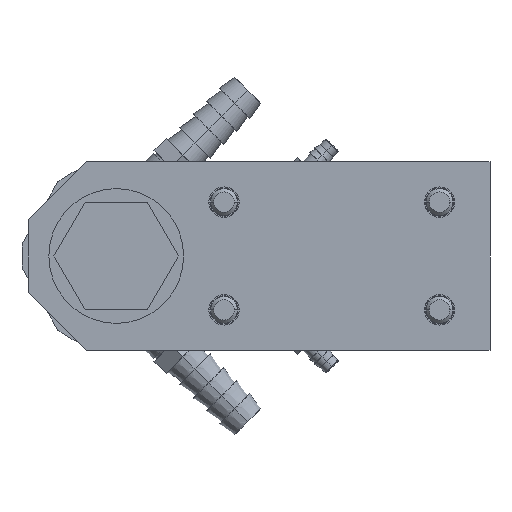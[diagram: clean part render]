
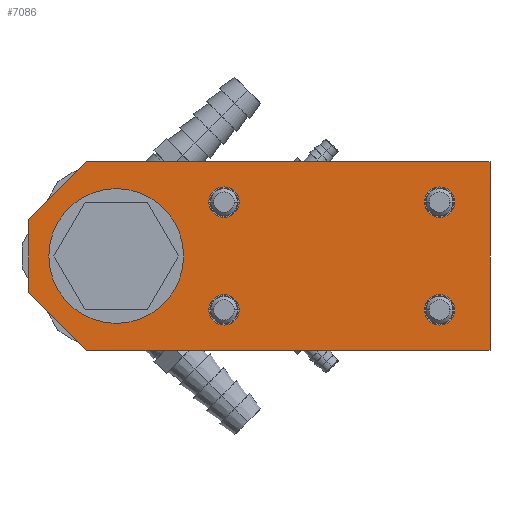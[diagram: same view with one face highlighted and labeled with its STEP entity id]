
A CAD part, left-side view. The second image highlights one B-rep face of the part: STEP entity #7086.
In plain terms, the highlighted planar face has unit normal (-1, 0, 0).
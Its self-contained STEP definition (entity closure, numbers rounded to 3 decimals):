
#6544=CARTESIAN_POINT('',(8.276,-8.673,-4.0));
#6545=VERTEX_POINT('',#6544);
#6561=CARTESIAN_POINT('',(8.276,-7.423,-4.0));
#6562=VERTEX_POINT('',#6561);
#6569=CARTESIAN_POINT('',(8.276,-8.048,-4.0));
#6570=DIRECTION('',(1.0,0.0,0.0));
#6571=DIRECTION('',(0.0,-1.0,0.0));
#6572=AXIS2_PLACEMENT_3D('',#6569,#6570,#6571);
#6573=CIRCLE('',#6572,0.625);
#6574=EDGE_CURVE('',#6545,#6562,#6573,.T.);
#6584=CARTESIAN_POINT('',(8.276,-9.189,-3.5));
#6585=VERTEX_POINT('',#6584);
#6594=CARTESIAN_POINT('',(8.276,-8.908,-3.5));
#6595=VERTEX_POINT('',#6594);
#6596=CARTESIAN_POINT('',(8.276,-9.048,-3.5));
#6597=DIRECTION('',(1.0,0.0,0.0));
#6598=DIRECTION('',(0.0,-1.0,0.0));
#6599=AXIS2_PLACEMENT_3D('',#6596,#6597,#6598);
#6600=CIRCLE('',#6599,0.141);
#6601=EDGE_CURVE('',#6595,#6585,#6600,.T.);
#6626=CARTESIAN_POINT('',(8.276,-11.189,-3.5));
#6627=VERTEX_POINT('',#6626);
#6636=CARTESIAN_POINT('',(8.276,-10.908,-3.5));
#6637=VERTEX_POINT('',#6636);
#6638=CARTESIAN_POINT('',(8.276,-11.048,-3.5));
#6639=DIRECTION('',(1.0,0.0,0.0));
#6640=DIRECTION('',(0.0,-1.0,0.0));
#6641=AXIS2_PLACEMENT_3D('',#6638,#6639,#6640);
#6642=CIRCLE('',#6641,0.141);
#6643=EDGE_CURVE('',#6637,#6627,#6642,.T.);
#6668=CARTESIAN_POINT('',(8.276,-11.189,-4.5));
#6669=VERTEX_POINT('',#6668);
#6678=CARTESIAN_POINT('',(8.276,-10.908,-4.5));
#6679=VERTEX_POINT('',#6678);
#6680=CARTESIAN_POINT('',(8.276,-11.048,-4.5));
#6681=DIRECTION('',(1.0,0.0,0.0));
#6682=DIRECTION('',(0.0,-1.0,0.0));
#6683=AXIS2_PLACEMENT_3D('',#6680,#6681,#6682);
#6684=CIRCLE('',#6683,0.141);
#6685=EDGE_CURVE('',#6679,#6669,#6684,.T.);
#6710=CARTESIAN_POINT('',(8.276,-9.189,-4.5));
#6711=VERTEX_POINT('',#6710);
#6720=CARTESIAN_POINT('',(8.276,-8.908,-4.5));
#6721=VERTEX_POINT('',#6720);
#6722=CARTESIAN_POINT('',(8.276,-9.048,-4.5));
#6723=DIRECTION('',(1.0,0.0,0.0));
#6724=DIRECTION('',(0.0,-1.0,0.0));
#6725=AXIS2_PLACEMENT_3D('',#6722,#6723,#6724);
#6726=CIRCLE('',#6725,0.141);
#6727=EDGE_CURVE('',#6721,#6711,#6726,.T.);
#6761=CARTESIAN_POINT('',(8.276,-9.048,-4.5));
#6762=DIRECTION('',(1.0,0.0,0.0));
#6763=DIRECTION('',(0.0,-1.0,0.0));
#6764=AXIS2_PLACEMENT_3D('',#6761,#6762,#6763);
#6765=CIRCLE('',#6764,0.141);
#6766=EDGE_CURVE('',#6711,#6721,#6765,.T.);
#6785=CARTESIAN_POINT('',(8.276,-11.048,-4.5));
#6786=DIRECTION('',(1.0,0.0,0.0));
#6787=DIRECTION('',(0.0,-1.0,0.0));
#6788=AXIS2_PLACEMENT_3D('',#6785,#6786,#6787);
#6789=CIRCLE('',#6788,0.141);
#6790=EDGE_CURVE('',#6669,#6679,#6789,.T.);
#6809=CARTESIAN_POINT('',(8.276,-11.048,-3.5));
#6810=DIRECTION('',(1.0,0.0,0.0));
#6811=DIRECTION('',(0.0,-1.0,0.0));
#6812=AXIS2_PLACEMENT_3D('',#6809,#6810,#6811);
#6813=CIRCLE('',#6812,0.141);
#6814=EDGE_CURVE('',#6627,#6637,#6813,.T.);
#6833=CARTESIAN_POINT('',(8.276,-9.048,-3.5));
#6834=DIRECTION('',(1.0,0.0,0.0));
#6835=DIRECTION('',(0.0,-1.0,0.0));
#6836=AXIS2_PLACEMENT_3D('',#6833,#6834,#6835);
#6837=CIRCLE('',#6836,0.141);
#6838=EDGE_CURVE('',#6585,#6595,#6837,.T.);
#6849=CARTESIAN_POINT('',(8.276,-8.048,-4.0));
#6850=DIRECTION('',(1.0,0.0,0.0));
#6851=DIRECTION('',(0.0,-1.0,0.0));
#6852=AXIS2_PLACEMENT_3D('',#6849,#6850,#6851);
#6853=CIRCLE('',#6852,0.625);
#6854=EDGE_CURVE('',#6562,#6545,#6853,.T.);
#6882=CARTESIAN_POINT('',(8.276,-7.236,-4.337));
#6883=VERTEX_POINT('',#6882);
#6890=CARTESIAN_POINT('',(8.276,-7.236,-3.663));
#6891=VERTEX_POINT('',#6890);
#6892=CARTESIAN_POINT('',(8.276,-7.236,-3.663));
#6893=DIRECTION('',(0.0,0.0,-1.0));
#6894=VECTOR('',#6893,0.673);
#6895=LINE('',#6892,#6894);
#6896=EDGE_CURVE('',#6891,#6883,#6895,.T.);
#6920=CARTESIAN_POINT('',(8.276,-7.774,-4.875));
#6921=VERTEX_POINT('',#6920);
#6928=CARTESIAN_POINT('',(8.276,-7.236,-4.337));
#6929=DIRECTION('',(0.0,-0.707,-0.707));
#6930=VECTOR('',#6929,0.761);
#6931=LINE('',#6928,#6930);
#6932=EDGE_CURVE('',#6883,#6921,#6931,.T.);
#6952=CARTESIAN_POINT('',(8.276,-7.774,-3.125));
#6953=VERTEX_POINT('',#6952);
#6954=CARTESIAN_POINT('',(8.276,-7.774,-3.125));
#6955=DIRECTION('',(0.0,0.707,-0.707));
#6956=VECTOR('',#6955,0.761);
#6957=LINE('',#6954,#6956);
#6958=EDGE_CURVE('',#6953,#6891,#6957,.T.);
#6974=CARTESIAN_POINT('',(8.276,-11.516,-3.125));
#6975=VERTEX_POINT('',#6974);
#6976=CARTESIAN_POINT('',(8.276,-11.516,-4.875));
#6977=VERTEX_POINT('',#6976);
#6978=CARTESIAN_POINT('',(8.276,-11.516,-3.125));
#6979=DIRECTION('',(0.0,0.0,-1.0));
#6980=VECTOR('',#6979,1.75);
#6981=LINE('',#6978,#6980);
#6982=EDGE_CURVE('',#6975,#6977,#6981,.T.);
#7014=CARTESIAN_POINT('',(8.276,-11.516,-4.875));
#7015=DIRECTION('',(0.0,1.0,0.0));
#7016=VECTOR('',#7015,3.742);
#7017=LINE('',#7014,#7016);
#7018=EDGE_CURVE('',#6977,#6921,#7017,.T.);
#7036=CARTESIAN_POINT('',(8.276,-7.774,-3.125));
#7037=DIRECTION('',(0.0,-1.0,0.0));
#7038=VECTOR('',#7037,3.742);
#7039=LINE('',#7036,#7038);
#7040=EDGE_CURVE('',#6953,#6975,#7039,.T.);
#7053=CARTESIAN_POINT('',(8.276,-9.645,-4.));
#7054=DIRECTION('',(1.0,0.0,0.0));
#7055=DIRECTION('',(0.0,-1.0,0.0));
#7056=AXIS2_PLACEMENT_3D('',#7053,#7054,#7055);
#7057=PLANE('',#7056);
#7058=ORIENTED_EDGE('',*,*,#6982,.F.);
#7059=ORIENTED_EDGE('',*,*,#7040,.F.);
#7060=ORIENTED_EDGE('',*,*,#6958,.T.);
#7061=ORIENTED_EDGE('',*,*,#6896,.T.);
#7062=ORIENTED_EDGE('',*,*,#6932,.T.);
#7063=ORIENTED_EDGE('',*,*,#7018,.F.);
#7064=EDGE_LOOP('',(#7058,#7059,#7060,#7061,#7062,#7063));
#7065=FACE_OUTER_BOUND('',#7064,.T.);
#7066=ORIENTED_EDGE('',*,*,#6727,.T.);
#7067=ORIENTED_EDGE('',*,*,#6766,.T.);
#7068=EDGE_LOOP('',(#7066,#7067));
#7069=FACE_BOUND('',#7068,.T.);
#7070=ORIENTED_EDGE('',*,*,#6685,.T.);
#7071=ORIENTED_EDGE('',*,*,#6790,.T.);
#7072=EDGE_LOOP('',(#7070,#7071));
#7073=FACE_BOUND('',#7072,.T.);
#7074=ORIENTED_EDGE('',*,*,#6643,.T.);
#7075=ORIENTED_EDGE('',*,*,#6814,.T.);
#7076=EDGE_LOOP('',(#7074,#7075));
#7077=FACE_BOUND('',#7076,.T.);
#7078=ORIENTED_EDGE('',*,*,#6601,.T.);
#7079=ORIENTED_EDGE('',*,*,#6838,.T.);
#7080=EDGE_LOOP('',(#7078,#7079));
#7081=FACE_BOUND('',#7080,.T.);
#7082=ORIENTED_EDGE('',*,*,#6854,.T.);
#7083=ORIENTED_EDGE('',*,*,#6574,.T.);
#7084=EDGE_LOOP('',(#7082,#7083));
#7085=FACE_BOUND('',#7084,.T.);
#7086=ADVANCED_FACE('',(#7065,#7069,#7073,#7077,#7081,#7085),#7057,.F.);
